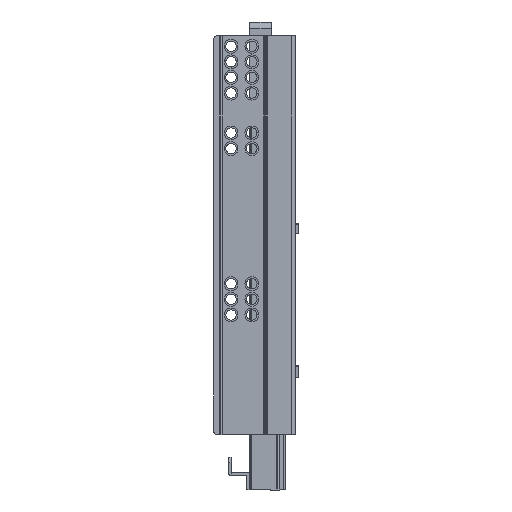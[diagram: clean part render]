
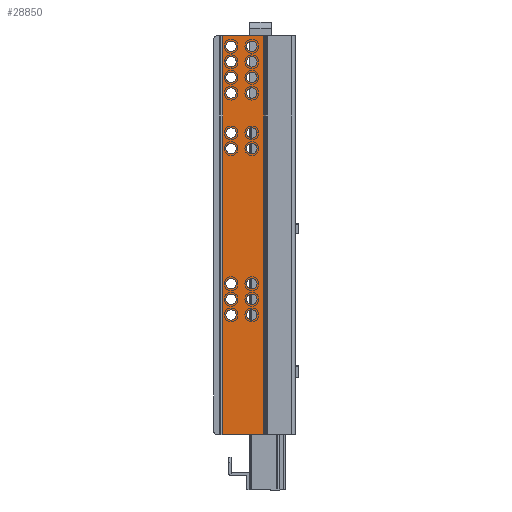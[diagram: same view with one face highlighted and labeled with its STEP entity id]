
A CAD part, left-side view. The second image highlights one B-rep face of the part: STEP entity #28850.
In plain terms, the highlighted planar face has unit normal (-1, 0, 0).
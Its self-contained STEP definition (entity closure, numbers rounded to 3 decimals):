
#829=FACE_BOUND('',#5919,.T.);
#830=FACE_BOUND('',#5920,.T.);
#831=FACE_BOUND('',#5921,.T.);
#832=FACE_BOUND('',#5922,.T.);
#833=FACE_BOUND('',#5923,.T.);
#834=FACE_BOUND('',#5924,.T.);
#835=FACE_BOUND('',#5925,.T.);
#836=FACE_BOUND('',#5926,.T.);
#837=FACE_BOUND('',#5927,.T.);
#838=FACE_BOUND('',#5928,.T.);
#839=FACE_BOUND('',#5929,.T.);
#840=FACE_BOUND('',#5930,.T.);
#841=FACE_BOUND('',#5931,.T.);
#842=FACE_BOUND('',#5932,.T.);
#843=FACE_BOUND('',#5933,.T.);
#844=FACE_BOUND('',#5934,.T.);
#845=FACE_BOUND('',#5935,.T.);
#846=FACE_BOUND('',#5936,.T.);
#1088=CIRCLE('',#30713,3.);
#1091=CIRCLE('',#30718,3.);
#1094=CIRCLE('',#30723,3.);
#1097=CIRCLE('',#30728,3.);
#1100=CIRCLE('',#30733,3.);
#1103=CIRCLE('',#30738,3.);
#1106=CIRCLE('',#30743,3.);
#1109=CIRCLE('',#30748,3.);
#1112=CIRCLE('',#30753,3.);
#1115=CIRCLE('',#30758,3.);
#1118=CIRCLE('',#30763,3.);
#1121=CIRCLE('',#30768,3.);
#1124=CIRCLE('',#30773,3.);
#1127=CIRCLE('',#30778,3.);
#1130=CIRCLE('',#30783,3.);
#1133=CIRCLE('',#30788,3.);
#1136=CIRCLE('',#30793,3.);
#1139=CIRCLE('',#30798,3.);
#4036=FACE_OUTER_BOUND('',#5918,.T.);
#5918=EDGE_LOOP('',(#18575,#18576,#18577,#18578));
#5919=EDGE_LOOP('',(#18579));
#5920=EDGE_LOOP('',(#18580));
#5921=EDGE_LOOP('',(#18581));
#5922=EDGE_LOOP('',(#18582));
#5923=EDGE_LOOP('',(#18583));
#5924=EDGE_LOOP('',(#18584));
#5925=EDGE_LOOP('',(#18585));
#5926=EDGE_LOOP('',(#18586));
#5927=EDGE_LOOP('',(#18587));
#5928=EDGE_LOOP('',(#18588));
#5929=EDGE_LOOP('',(#18589));
#5930=EDGE_LOOP('',(#18590));
#5931=EDGE_LOOP('',(#18591));
#5932=EDGE_LOOP('',(#18592));
#5933=EDGE_LOOP('',(#18593));
#5934=EDGE_LOOP('',(#18594));
#5935=EDGE_LOOP('',(#18595));
#5936=EDGE_LOOP('',(#18596));
#7984=LINE('',#44680,#9894);
#7991=LINE('',#44849,#9901);
#8004=LINE('',#44893,#9914);
#8014=LINE('',#44910,#9924);
#9894=VECTOR('',#34801,23.586);
#9901=VECTOR('',#35008,230.);
#9914=VECTOR('',#35047,23.586);
#9924=VECTOR('',#35071,230.);
#11806=VERTEX_POINT('',#44677);
#11807=VERTEX_POINT('',#44679);
#11816=VERTEX_POINT('',#44706);
#11819=VERTEX_POINT('',#44714);
#11822=VERTEX_POINT('',#44722);
#11825=VERTEX_POINT('',#44730);
#11828=VERTEX_POINT('',#44738);
#11831=VERTEX_POINT('',#44746);
#11834=VERTEX_POINT('',#44754);
#11837=VERTEX_POINT('',#44762);
#11840=VERTEX_POINT('',#44770);
#11843=VERTEX_POINT('',#44778);
#11846=VERTEX_POINT('',#44786);
#11849=VERTEX_POINT('',#44794);
#11852=VERTEX_POINT('',#44802);
#11855=VERTEX_POINT('',#44810);
#11858=VERTEX_POINT('',#44818);
#11861=VERTEX_POINT('',#44826);
#11864=VERTEX_POINT('',#44834);
#11867=VERTEX_POINT('',#44842);
#11869=VERTEX_POINT('',#44847);
#11887=VERTEX_POINT('',#44891);
#14246=EDGE_CURVE('',#11806,#11807,#7984,.T.);
#14259=EDGE_CURVE('',#11816,#11816,#1088,.T.);
#14262=EDGE_CURVE('',#11819,#11819,#1091,.T.);
#14265=EDGE_CURVE('',#11822,#11822,#1094,.T.);
#14268=EDGE_CURVE('',#11825,#11825,#1097,.T.);
#14271=EDGE_CURVE('',#11828,#11828,#1100,.T.);
#14274=EDGE_CURVE('',#11831,#11831,#1103,.T.);
#14277=EDGE_CURVE('',#11834,#11834,#1106,.T.);
#14280=EDGE_CURVE('',#11837,#11837,#1109,.T.);
#14283=EDGE_CURVE('',#11840,#11840,#1112,.T.);
#14286=EDGE_CURVE('',#11843,#11843,#1115,.T.);
#14289=EDGE_CURVE('',#11846,#11846,#1118,.T.);
#14292=EDGE_CURVE('',#11849,#11849,#1121,.T.);
#14295=EDGE_CURVE('',#11852,#11852,#1124,.T.);
#14298=EDGE_CURVE('',#11855,#11855,#1127,.T.);
#14301=EDGE_CURVE('',#11858,#11858,#1130,.T.);
#14304=EDGE_CURVE('',#11861,#11861,#1133,.T.);
#14307=EDGE_CURVE('',#11864,#11864,#1136,.T.);
#14310=EDGE_CURVE('',#11867,#11867,#1139,.T.);
#14313=EDGE_CURVE('',#11869,#11806,#7991,.T.);
#14336=EDGE_CURVE('',#11887,#11869,#8004,.T.);
#14346=EDGE_CURVE('',#11807,#11887,#8014,.T.);
#18575=ORIENTED_EDGE('',*,*,#14313,.F.);
#18576=ORIENTED_EDGE('',*,*,#14336,.F.);
#18577=ORIENTED_EDGE('',*,*,#14346,.F.);
#18578=ORIENTED_EDGE('',*,*,#14246,.F.);
#18579=ORIENTED_EDGE('',*,*,#14259,.T.);
#18580=ORIENTED_EDGE('',*,*,#14262,.T.);
#18581=ORIENTED_EDGE('',*,*,#14265,.T.);
#18582=ORIENTED_EDGE('',*,*,#14268,.T.);
#18583=ORIENTED_EDGE('',*,*,#14271,.T.);
#18584=ORIENTED_EDGE('',*,*,#14274,.T.);
#18585=ORIENTED_EDGE('',*,*,#14277,.T.);
#18586=ORIENTED_EDGE('',*,*,#14280,.T.);
#18587=ORIENTED_EDGE('',*,*,#14283,.T.);
#18588=ORIENTED_EDGE('',*,*,#14286,.T.);
#18589=ORIENTED_EDGE('',*,*,#14289,.T.);
#18590=ORIENTED_EDGE('',*,*,#14292,.T.);
#18591=ORIENTED_EDGE('',*,*,#14295,.T.);
#18592=ORIENTED_EDGE('',*,*,#14298,.T.);
#18593=ORIENTED_EDGE('',*,*,#14301,.T.);
#18594=ORIENTED_EDGE('',*,*,#14304,.T.);
#18595=ORIENTED_EDGE('',*,*,#14307,.T.);
#18596=ORIENTED_EDGE('',*,*,#14310,.T.);
#26509=PLANE('',#30821);
#28850=ADVANCED_FACE('',(#4036,#829,#830,#831,#832,#833,#834,#835,#836,
#837,#838,#839,#840,#841,#842,#843,#844,#845,#846),#26509,.T.);
#30713=AXIS2_PLACEMENT_3D('',#44707,#34831,#34832);
#30718=AXIS2_PLACEMENT_3D('',#44715,#34841,#34842);
#30723=AXIS2_PLACEMENT_3D('',#44723,#34851,#34852);
#30728=AXIS2_PLACEMENT_3D('',#44731,#34861,#34862);
#30733=AXIS2_PLACEMENT_3D('',#44739,#34871,#34872);
#30738=AXIS2_PLACEMENT_3D('',#44747,#34881,#34882);
#30743=AXIS2_PLACEMENT_3D('',#44755,#34891,#34892);
#30748=AXIS2_PLACEMENT_3D('',#44763,#34901,#34902);
#30753=AXIS2_PLACEMENT_3D('',#44771,#34911,#34912);
#30758=AXIS2_PLACEMENT_3D('',#44779,#34921,#34922);
#30763=AXIS2_PLACEMENT_3D('',#44787,#34931,#34932);
#30768=AXIS2_PLACEMENT_3D('',#44795,#34941,#34942);
#30773=AXIS2_PLACEMENT_3D('',#44803,#34951,#34952);
#30778=AXIS2_PLACEMENT_3D('',#44811,#34961,#34962);
#30783=AXIS2_PLACEMENT_3D('',#44819,#34971,#34972);
#30788=AXIS2_PLACEMENT_3D('',#44827,#34981,#34982);
#30793=AXIS2_PLACEMENT_3D('',#44835,#34991,#34992);
#30798=AXIS2_PLACEMENT_3D('',#44843,#35001,#35002);
#30821=AXIS2_PLACEMENT_3D('',#44912,#35073,#35074);
#34801=DIRECTION('',(0.,-1.,0.));
#34831=DIRECTION('center_axis',(1.,0.,0.));
#34832=DIRECTION('ref_axis',(0.,0.,-1.));
#34841=DIRECTION('center_axis',(1.,0.,0.));
#34842=DIRECTION('ref_axis',(0.,0.,-1.));
#34851=DIRECTION('center_axis',(1.,0.,0.));
#34852=DIRECTION('ref_axis',(0.,0.,-1.));
#34861=DIRECTION('center_axis',(1.,0.,0.));
#34862=DIRECTION('ref_axis',(0.,0.,-1.));
#34871=DIRECTION('center_axis',(1.,0.,0.));
#34872=DIRECTION('ref_axis',(0.,0.,-1.));
#34881=DIRECTION('center_axis',(1.,0.,0.));
#34882=DIRECTION('ref_axis',(0.,0.,-1.));
#34891=DIRECTION('center_axis',(1.,0.,0.));
#34892=DIRECTION('ref_axis',(0.,0.,-1.));
#34901=DIRECTION('center_axis',(1.,0.,0.));
#34902=DIRECTION('ref_axis',(0.,0.,-1.));
#34911=DIRECTION('center_axis',(1.,0.,0.));
#34912=DIRECTION('ref_axis',(0.,0.,-1.));
#34921=DIRECTION('center_axis',(1.,0.,0.));
#34922=DIRECTION('ref_axis',(0.,0.,-1.));
#34931=DIRECTION('center_axis',(1.,0.,0.));
#34932=DIRECTION('ref_axis',(0.,0.,-1.));
#34941=DIRECTION('center_axis',(1.,0.,0.));
#34942=DIRECTION('ref_axis',(0.,0.,-1.));
#34951=DIRECTION('center_axis',(1.,0.,0.));
#34952=DIRECTION('ref_axis',(0.,0.,-1.));
#34961=DIRECTION('center_axis',(1.,0.,0.));
#34962=DIRECTION('ref_axis',(0.,0.,-1.));
#34971=DIRECTION('center_axis',(1.,0.,0.));
#34972=DIRECTION('ref_axis',(0.,0.,-1.));
#34981=DIRECTION('center_axis',(1.,0.,0.));
#34982=DIRECTION('ref_axis',(0.,0.,-1.));
#34991=DIRECTION('center_axis',(1.,0.,0.));
#34992=DIRECTION('ref_axis',(0.,0.,-1.));
#35001=DIRECTION('center_axis',(1.,0.,0.));
#35002=DIRECTION('ref_axis',(0.,0.,-1.));
#35008=DIRECTION('',(0.,0.,1.));
#35047=DIRECTION('',(0.,1.,0.));
#35071=DIRECTION('',(0.,0.,-1.));
#35073=DIRECTION('center_axis',(-1.,0.,0.));
#35074=DIRECTION('ref_axis',(0.,1.,0.));
#44677=CARTESIAN_POINT('',(1.,41.793,0.));
#44679=CARTESIAN_POINT('',(1.,18.207,0.));
#44680=CARTESIAN_POINT('',(1.,42.,0.));
#44706=CARTESIAN_POINT('',(1.,37.,-158.));
#44707=CARTESIAN_POINT('Origin',(1.,37.,-161.));
#44714=CARTESIAN_POINT('',(1.,37.,-149.));
#44715=CARTESIAN_POINT('Origin',(1.,37.,-152.));
#44722=CARTESIAN_POINT('',(1.,37.,-140.));
#44723=CARTESIAN_POINT('Origin',(1.,37.,-143.));
#44730=CARTESIAN_POINT('',(1.,25.,-140.));
#44731=CARTESIAN_POINT('Origin',(1.,25.,-143.));
#44738=CARTESIAN_POINT('',(1.,25.,-149.));
#44739=CARTESIAN_POINT('Origin',(1.,25.,-152.));
#44746=CARTESIAN_POINT('',(1.,25.,-158.));
#44747=CARTESIAN_POINT('Origin',(1.,25.,-161.));
#44754=CARTESIAN_POINT('',(1.,25.,-53.));
#44755=CARTESIAN_POINT('Origin',(1.,25.,-56.));
#44762=CARTESIAN_POINT('',(1.,37.,-53.));
#44763=CARTESIAN_POINT('Origin',(1.,37.,-56.));
#44770=CARTESIAN_POINT('',(1.,37.,-30.));
#44771=CARTESIAN_POINT('Origin',(1.,37.,-33.));
#44778=CARTESIAN_POINT('',(1.,37.,-21.));
#44779=CARTESIAN_POINT('Origin',(1.,37.,-24.));
#44786=CARTESIAN_POINT('',(1.,37.,-12.));
#44787=CARTESIAN_POINT('Origin',(1.,37.,-15.));
#44794=CARTESIAN_POINT('',(1.,37.,-3.));
#44795=CARTESIAN_POINT('Origin',(1.,37.,-6.));
#44802=CARTESIAN_POINT('',(1.,25.,-3.));
#44803=CARTESIAN_POINT('Origin',(1.,25.,-6.));
#44810=CARTESIAN_POINT('',(1.,25.,-12.));
#44811=CARTESIAN_POINT('Origin',(1.,25.,-15.));
#44818=CARTESIAN_POINT('',(1.,25.,-21.));
#44819=CARTESIAN_POINT('Origin',(1.,25.,-24.));
#44826=CARTESIAN_POINT('',(1.,25.,-30.));
#44827=CARTESIAN_POINT('Origin',(1.,25.,-33.));
#44834=CARTESIAN_POINT('',(1.,37.,-62.));
#44835=CARTESIAN_POINT('Origin',(1.,37.,-65.));
#44842=CARTESIAN_POINT('',(1.,25.,-62.));
#44843=CARTESIAN_POINT('Origin',(1.,25.,-65.));
#44847=CARTESIAN_POINT('',(1.,41.793,-230.));
#44849=CARTESIAN_POINT('',(1.,41.793,0.));
#44891=CARTESIAN_POINT('',(1.,18.207,-230.));
#44893=CARTESIAN_POINT('',(1.,42.,-230.));
#44910=CARTESIAN_POINT('',(1.,18.207,0.));
#44912=CARTESIAN_POINT('Origin',(1.,18.,0.));
